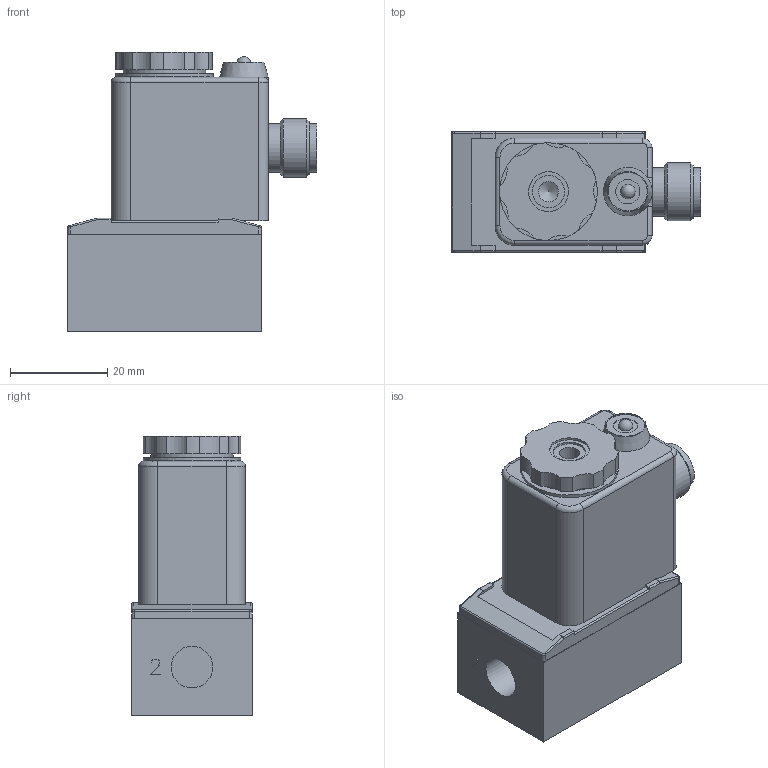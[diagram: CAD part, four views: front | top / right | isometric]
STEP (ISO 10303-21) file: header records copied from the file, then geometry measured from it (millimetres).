
FILE_DESCRIPTION (( 'STEP AP214' ), '1' );
FILE_NAME ('MS-18-310-HN-O12_Airtec.step', '2018-12-14T07:35:41', ( '' ), ( '' ), 'SwSTEP 2.0', 'SolidWorks 2010', '' );
FILE_SCHEMA (( 'AUTOMOTIVE_DESIGN' ));
Length unit declared in the file: millimetre
Products named in the file (3): Volumenkörper4; Volumenkörper1; MS-18-310-HN-O12_Airtec
Assembly tree (2 placements, depth 2):
  MS-18-310-HN-O12_Airtec
    Volumenkörper1
    Volumenkörper4
Bounding box: 51.3 x 25 x 57.45 mm (x, y, z)
Volume: 42330.5 mm3; surface area: 15265.7 mm2
Topology: 2 solids, 2 shells, 339 faces, 801 edges, 512 vertices
Faces by surface type: plane 187, cylinder 106, bspline 17, cone 15, torus 9, sphere 5
Full cylindrical faces by diameter (mm): 0.75 x2, 2 x4, 4.134 x5, 5 x1, 6.647 x1, 7.3 x4, 7.4 x4, 8 x2, 8.2 x2, 8.566 x2, 9 x1, 9.04 x2, 9.1 x1, 10 x2, 10.5 x1, 12 x1, 13.2 x1, 16 x2, 17.041 x1, 20.1 x1
Entity records: 11606 total; most frequent: CARTESIAN_POINT 2400, DIRECTION 1526, ORIENTED_EDGE 1464, EDGE_CURVE 732, AXIS2_PLACEMENT_3D 541, VERTEX_POINT 503, EDGE_LOOP 447, LINE 444
